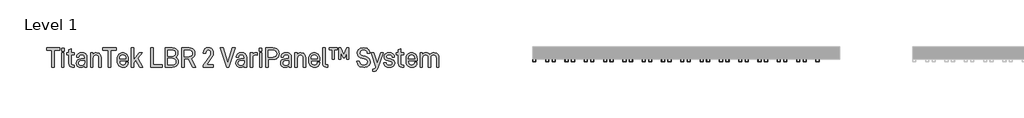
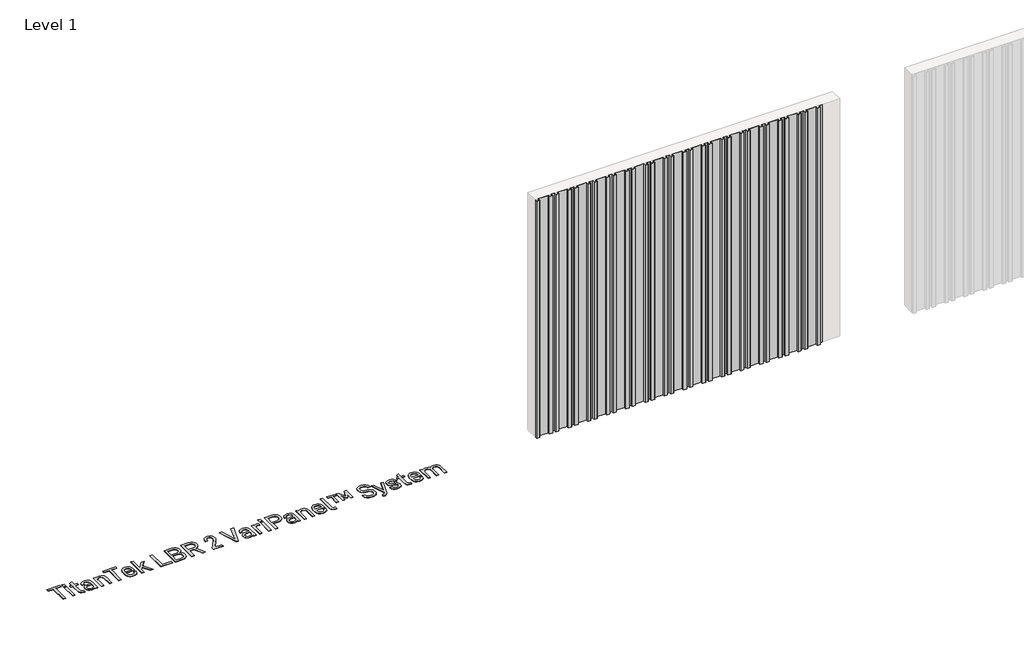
# One storey, part 25 of 33: 2 proxies.
"""IFC4 building model written with IfcOpenShell, lengths in millimetres."""

from ifc_helpers import new_model, si_unit, origin, origin_with_axes, place, context, project, spatial, polyline, outline, extrude, transform, mapped, element, save
from components import aluminum_slate_gray_e42b10ff

model = new_model("IFC4")

# Units and contexts
model_context = context("Model", 3, world=origin())
ifc_project = project(units=[si_unit("LENGTHUNIT", "METRE", prefix="MILLI")], contexts=[model_context])

# Site, building, storey
site = spatial("IfcSite", under=ifc_project)
building = spatial("IfcBuilding", under=site)
storey = spatial("IfcBuildingStorey", under=building, Name="Level 1", Elevation=0.0)

# Proxies
placement = place(None, origin())
element("IfcBuildingElementProxy", 1, Name="600mm Arial 2", ObjectType="600mm Arial 2", at=placement, inside=storey, context=model_context, shape_type="SweptSolid", body=[
    extrude(outline(polyline([(-9914.9924556, 87220.4128343), (-9914.9924556, 86952.9873502), (-9954.4439015, 86952.9873502), (-9954.4439015, 87220.4128343), (-10038.8787304, 87220.4128343), (-10038.8787304, 87257.3166776), (-9830.5576267, 87257.3166776), (-9830.5576267, 87220.4128343), (-9914.9924556, 87220.4128343)])), origin_with_axes(), (0.0, 0.0, 1.0), 5.0),
    extrude(outline(polyline([(-9763.1553408, 87253.0221475), (-9763.1553408, 87205.8551051), (-9802.6067867, 87205.8551051), (-9802.6067867, 87253.0221475), (-9763.1553408, 87253.0221475)])), origin_with_axes(), (0.0, 0.0, 1.0), 5.0),
    extrude(outline(polyline([(-9764.0288046, 87178.8505176), (-9764.0288046, 86952.9873502), (-9801.733323, 86952.9873502), (-9801.733323, 87178.8505176), (-9764.0288046, 87178.8505176)])), origin_with_axes(), (0.0, 0.0, 1.0), 5.0),
    extrude(outline(polyline([(-9648.294858, 87012.601251), (-9646.8208879, 87001.5191797), (-9642.3989777, 86993.6034145), (-9635.0291273, 86988.8539554), (-9624.7113368, 86987.2708023), (-9603.2386864, 86987.2708023), (-9603.2386864, 86952.9873502), (-9629.3698101, 86952.9873502), (-9653.1535001, 86956.9543314), (-9671.3688587, 86968.855275), (-9682.6692959, 86987.3981825), (-9686.4361083, 87011.2910554), (-9686.4361083, 87147.1146681), (-9720.2828285, 87147.1146681), (-9720.2828285, 87178.8505176), (-9686.4361083, 87178.8505176), (-9686.4361083, 87226.8910237), (-9648.294858, 87244.8698192), (-9648.294858, 87178.8505176), (-9599.3808881, 87178.8505176), (-9599.3808881, 87147.1146681), (-9648.294858, 87147.1146681), (-9648.294858, 87012.601251)])), origin_with_axes(), (0.0, 0.0, 1.0), 5.0),
    extrude(outline(polyline([(-9422.8684225, 87162.1091291), (-9413.2830677, 87151.3409589), (-9406.4363858, 87138.2526505), (-9400.9590402, 87105.1156196), (-9400.9590402, 86952.9873502), (-9438.2996154, 86952.9873502), (-9438.2996154, 86969.2920069), (-9456.7151427, 86956.8451485), (-9473.7476858, 86952.0410978), (-9493.9829293, 86950.4397476), (-9526.0281305, 86954.7160806), (-9550.1029751, 86967.5450794), (-9565.2248162, 86989.3270816), (-9570.2654299, 87018.5699199), (-9565.1338304, 87046.2114081), (-9549.7390318, 87067.4111012), (-9525.063681, 87080.6222403), (-9493.1094655, 87085.0259534), (-9438.7363472, 87085.0259534), (-9438.7363472, 87105.5523515), (-9441.6296959, 87124.441005), (-9450.3097419, 87138.1616647), (-9464.2305704, 87146.1866129), (-9483.7197302, 87148.8615956), (-9502.2262434, 87146.6051476), (-9515.819523, 87139.8358036), (-9524.1720201, 87129.4816187), (-9526.9561857, 87115.4516073), (-9526.9561857, 87109.8468816), (-9563.8600291, 87109.8468816), (-9563.8600291, 87116.2522824), (-9558.4008807, 87143.2932642), (-9542.0234354, 87164.2927885), (-9516.8203668, 87177.4493362), (-9484.1564621, 87181.8348521), (-9448.6719974, 87176.9034213), (-9434.5600987, 87170.7391329), (-9422.8684225, 87162.1091291)]), holes=[polyline([(-9450.6736851, 86994.5496669), (-9441.7206817, 87009.4531421), (-9438.7363472, 87031.0167784), (-9438.7363472, 87054.9642428), (-9488.8149354, 87054.9642428), (-9507.9538, 87052.7168933), (-9521.6244175, 87045.974845), (-9529.826788, 87034.7380979), (-9532.5609115, 87019.0066518), (-9529.8540837, 87003.0522906), (-9521.7336004, 86991.6563182), (-9508.1994616, 86984.8187348), (-9489.2516673, 86982.5395404), (-9466.104878, 86985.542072), (-9450.6736851, 86994.5496669)])]), origin_with_axes(), (0.0, 0.0, 1.0), 5.0),
    extrude(outline(polyline([(-9306.6977441, 87178.8505176), (-9306.6977441, 87160.4349903), (-9288.2822167, 87173.6825238), (-9271.1222935, 87179.4692211), (-9252.2518372, 87181.3981202), (-9219.9154813, 87175.9389718), (-9206.7907787, 87169.1150363), (-9195.6950595, 87159.5615265), (-9187.0650557, 87147.9790333), (-9180.9007673, 87134.1946835), (-9175.9693365, 87100.0204144), (-9175.9693365, 86952.9873502), (-9213.673855, 86952.9873502), (-9213.673855, 87095.7258843), (-9216.6763866, 87118.1083928), (-9225.6839815, 87133.8671346), (-9240.3781893, 87143.4752358), (-9259.567096, 87146.6779363), (-9278.7378056, 87143.4752358), (-9293.3774219, 87133.8671346), (-9303.0401146, 87117.453295), (-9306.2610122, 87095.7258843), (-9306.2610122, 86952.9873502), (-9343.9655306, 86952.9873502), (-9343.9655306, 87178.8505176), (-9306.6977441, 87178.8505176)])), origin_with_axes(), (0.0, 0.0, 1.0), 5.0),
    extrude(outline(polyline([(-9025.2240514, 87220.4128343), (-9025.2240514, 86952.9873502), (-9064.6754974, 86952.9873502), (-9064.6754974, 87220.4128343), (-9149.1103263, 87220.4128343), (-9149.1103263, 87257.3166776), (-8940.7892225, 87257.3166776), (-8940.7892225, 87220.4128343), (-9025.2240514, 87220.4128343)])), origin_with_axes(), (0.0, 0.0, 1.0), 5.0),
    extrude(outline(polyline([(-8884.5235994, 87047.2486463), (-8881.1025331, 87017.8329349), (-8870.8393341, 86998.8805913), (-8854.3527058, 86988.5900965), (-8832.2613519, 86985.1599316), (-8812.990558, 86987.7257314), (-8798.8513635, 86995.4231306), (-8790.1713175, 87007.1966941), (-8787.2779689, 87022.86445), (-8787.2779689, 87028.3963871), (-8750.3741256, 87028.3963871), (-8750.3741256, 87021.9909863), (-8756.0516399, 86992.8391337), (-8763.1485329, 86980.528754), (-8773.084183, 86969.7287387), (-8799.7976159, 86955.2619954), (-8834.3722226, 86950.4397476), (-8853.3222916, 86951.9387388), (-8870.2843206, 86956.4357123), (-8885.2583098, 86963.9306682), (-8898.2442591, 86974.4236064), (-8908.7371973, 86988.0237099), (-8916.2321532, 87004.8401617), (-8920.7291267, 87024.8729617), (-8922.2281179, 87048.1221101), (-8922.2281179, 87085.8266285), (-8920.7314014, 87108.5321367), (-8916.2412518, 87128.1714231), (-8908.7576691, 87144.7444879), (-8898.2806535, 87158.2513309), (-8885.4971476, 87168.5691214), (-8870.7301511, 87175.9389718), (-8853.979664, 87180.360882), (-8835.2456864, 87181.8348521), (-8816.8438069, 87180.360882), (-8800.2161506, 87175.9389718), (-8785.3627176, 87168.5691214), (-8772.2835079, 87158.2513309), (-8761.9657174, 87144.9082623), (-8754.595867, 87128.389789), (-8750.1739568, 87108.6959111), (-8748.6999867, 87085.8266285), (-8748.6999867, 87055.8377065), (-8884.5235994, 87055.8377065), (-8884.5235994, 87047.2486463)]), holes=[polyline([(-8871.2760659, 87133.4304027), (-8881.2117161, 87115.30603), (-8884.5235994, 87086.7000923), (-8786.4045051, 87086.2633604), (-8786.4045051, 87089.6844267), (-8789.6254027, 87116.9255774), (-8799.2880954, 87134.3038665), (-8814.9012599, 87143.5844188), (-8835.2456864, 87146.6779363), (-8855.60831, 87143.3660529), (-8871.2760659, 87133.4304027)])]), origin_with_axes(), (0.0, 0.0, 1.0), 5.0),
    extrude(outline(polyline([(-8663.391694, 87020.3168474), (-8663.391694, 86952.9873502), (-8701.0962125, 86952.9873502), (-8701.0962125, 87257.3166776), (-8663.391694, 87257.3166776), (-8663.391694, 87070.8321675), (-8575.0990669, 87178.8505176), (-8528.3687564, 87178.8505176), (-8602.5403863, 87091.8680861), (-8517.6688255, 86952.9873502), (-8563.5256722, 86952.9873502), (-8627.7980463, 87062.6798392), (-8663.391694, 87020.3168474)])), origin_with_axes(), (0.0, 0.0, 1.0), 5.0),
    extrude(outline(polyline([(-8356.2963981, 87257.3166776), (-8356.2963981, 86989.8184049), (-8208.8993907, 86989.8184049), (-8208.8993907, 86952.9873502), (-8396.1845759, 86952.9873502), (-8396.1845759, 87257.3166776), (-8356.2963981, 87257.3166776)])), origin_with_axes(), (0.0, 0.0, 1.0), 5.0),
    extrude(outline(polyline([(-7972.0451379, 87085.8266285), (-7962.0548962, 87064.117415), (-7958.7248157, 87038.2956429), (-7960.3056941, 87019.4251865), (-7965.0483293, 87002.7019952), (-7972.9527213, 86988.1260689), (-7984.0188701, 86975.6974077), (-7997.7918466, 86965.7617575), (-8013.8167219, 86958.6648646), (-8052.6221686, 86952.9873502), (-8167.9193832, 86952.9873502), (-8167.9193832, 87257.3166776), (-8055.1697712, 87257.3166776), (-8016.7373663, 87251.948515), (-8001.1242018, 87245.2383117), (-7987.9130626, 87235.8440271), (-7977.2131317, 87223.8520978), (-7969.5703239, 87209.7129034), (-7964.9846392, 87193.4264439), (-7963.4560777, 87174.9927194), (-7966.6769752, 87152.1552818), (-7976.3396679, 87131.6834753), (-7987.7856825, 87118.6179134), (-8001.597328, 87109.4101497), (-7984.7831508, 87099.2197393), (-7972.0451379, 87085.8266285)]), holes=[polyline([(-8013.6074545, 87002.7019952), (-8002.3616088, 87018.351554), (-7998.6129935, 87040.4065136), (-8002.2524258, 87062.0793329), (-8013.1707226, 87077.310357), (-8031.1677153, 87086.9184582), (-8056.0432349, 87090.1211586), (-8128.0312054, 87090.1211586), (-8128.0312054, 86989.4544617), (-8056.4799668, 86989.4544617), (-8031.6044471, 86992.7663451), (-8013.6074545, 87002.7019952)]), polyline([(-8128.0312054, 87126.5882701), (-8058.5908375, 87126.5882701), (-8035.2438794, 87129.4816187), (-8017.4652527, 87138.1616647), (-8006.8745048, 87152.737591), (-8003.3442555, 87173.3185806), (-8006.7653218, 87193.77219), (-8017.0285209, 87208.8394396), (-8034.2066412, 87217.8470345), (-8058.2268943, 87220.8495661), (-8128.0312054, 87220.8495661), (-8128.0312054, 87126.5882701)])]), origin_with_axes(), (0.0, 0.0, 1.0), 5.0),
    extrude(outline(polyline([(-7862.4982262, 87082.842294), (-7862.4982262, 86952.9873502), (-7902.386404, 86952.9873502), (-7902.386404, 87257.3166776), (-7788.3993849, 87257.3166776), (-7749.9123886, 87251.6391632), (-7733.9580273, 87244.5422703), (-7720.196424, 87234.6066202), (-7709.1461977, 87221.8777058), (-7701.253179, 87206.8377519), (-7696.5173677, 87189.4867585), (-7694.938764, 87169.8247256), (-7699.3242799, 87139.8540007), (-7712.4808275, 87115.0148754), (-7731.5696499, 87097.9641352), (-7756.2268036, 87087.1368241), (-7685.5490287, 86952.9873502), (-7731.4058754, 86952.9873502), (-7798.2258521, 87082.842294), (-7862.4982262, 87082.842294)]), holes=[polyline([(-7790.9469875, 87118.4359417), (-7766.6173827, 87121.7478251), (-7749.3846709, 87131.6834753), (-7738.466374, 87147.5695972), (-7734.8269418, 87169.4607823), (-7738.3571911, 87191.6158263), (-7748.947939, 87207.5656383), (-7766.5081998, 87217.2010353), (-7790.9469875, 87220.4128343), (-7862.4982262, 87220.4128343), (-7862.4982262, 87118.4359417), (-7790.9469875, 87118.4359417)])]), origin_with_axes(), (0.0, 0.0, 1.0), 5.0),
    extrude(outline(polyline([(-7461.7239434, 87127.4617338), (-7448.1852553, 87153.2471115), (-7443.6723592, 87176.7396469), (-7443.6723592, 87183.1450477), (-7446.3655391, 87200.9418716), (-7454.4450788, 87214.0074335), (-7467.2922748, 87222.3599305), (-7483.560537, 87225.1440962), (-7499.9379823, 87222.4691135), (-7512.2392634, 87214.4441653), (-7519.9912542, 87200.6143227), (-7522.5752511, 87181.3981202), (-7522.5752511, 87169.4607823), (-7561.9539084, 87169.4607823), (-7561.9539084, 87183.1450477), (-7556.6039429, 87214.7535171), (-7540.5540466, 87240.1385572), (-7514.9506405, 87256.1884536), (-7482.6870733, 87261.5384191), (-7460.5047335, 87258.9726193), (-7441.1247566, 87251.27522), (-7425.1658461, 87239.3924736), (-7413.2467054, 87223.3971687), (-7405.876855, 87204.9998386), (-7403.4202382, 87184.0185115), (-7403.4202382, 87176.7396469), (-7405.1307714, 87158.0875565), (-7410.2623709, 87140.7092673), (-7429.9880939, 87105.9890833), (-7511.0018565, 86989.4544617), (-7403.4202382, 86989.4544617), (-7403.4202382, 86952.9873502), (-7561.9539084, 86952.9873502), (-7561.9539084, 86983.849736), (-7461.7239434, 87127.4617338)])), origin_with_axes(), (0.0, 0.0, 1.0), 5.0),
    extrude(outline(polyline([(-7103.8949615, 87257.3166776), (-7062.3326448, 87257.3166776), (-7161.7619347, 86952.9873502), (-7193.4977842, 86952.9873502), (-7292.4903423, 87257.3166776), (-7250.9280256, 87257.3166776), (-7177.1931276, 87022.86445), (-7103.8949615, 87257.3166776)])), origin_with_axes(), (0.0, 0.0, 1.0), 5.0),
    extrude(outline(polyline([(-6902.6343563, 87162.1091291), (-6893.0490015, 87151.3409589), (-6886.2023195, 87138.2526505), (-6880.724974, 87105.1156196), (-6880.724974, 86952.9873502), (-6918.0655492, 86952.9873502), (-6918.0655492, 86969.2920069), (-6936.4810765, 86956.8451485), (-6953.5136196, 86952.0410978), (-6973.7488631, 86950.4397476), (-7005.7940643, 86954.7160806), (-7029.8689089, 86967.5450794), (-7044.99075, 86989.3270816), (-7050.0313637, 87018.5699199), (-7044.8997642, 87046.2114081), (-7029.5049656, 87067.4111012), (-7004.8296148, 87080.6222403), (-6972.8753993, 87085.0259534), (-6918.502281, 87085.0259534), (-6918.502281, 87105.5523515), (-6921.3956297, 87124.441005), (-6930.0756757, 87138.1616647), (-6943.9965042, 87146.1866129), (-6963.485664, 87148.8615956), (-6981.9921772, 87146.6051476), (-6995.5854568, 87139.8358036), (-7003.9379538, 87129.4816187), (-7006.7221195, 87115.4516073), (-7006.7221195, 87109.8468816), (-7043.6259629, 87109.8468816), (-7043.6259629, 87116.2522824), (-7038.1668145, 87143.2932642), (-7021.7893692, 87164.2927885), (-6996.5863006, 87177.4493362), (-6963.9223959, 87181.8348521), (-6928.4379312, 87176.9034213), (-6914.3260325, 87170.7391329), (-6902.6343563, 87162.1091291)]), holes=[polyline([(-6930.4396189, 86994.5496669), (-6921.4866155, 87009.4531421), (-6918.502281, 87031.0167784), (-6918.502281, 87054.9642428), (-6968.5808692, 87054.9642428), (-6987.7197337, 87052.7168933), (-7001.3903513, 87045.974845), (-7009.5927218, 87034.7380979), (-7012.3268453, 87019.0066518), (-7009.6200175, 87003.0522906), (-7001.4995342, 86991.6563182), (-6987.9653954, 86984.8187348), (-6969.0176011, 86982.5395404), (-6945.8708118, 86985.542072), (-6930.4396189, 86994.5496669)])]), origin_with_axes(), (0.0, 0.0, 1.0), 5.0),
    extrude(outline(polyline([(-6733.7646984, 87181.8348521), (-6713.6022436, 87179.7239814), (-6713.6022436, 87140.7092673), (-6740.1700993, 87146.313993), (-6758.5037394, 87142.7746451), (-6773.17975, 87132.1566015), (-6782.815147, 87115.7518604), (-6786.026946, 87094.8524206), (-6786.026946, 86952.9873502), (-6823.7314644, 86952.9873502), (-6823.7314644, 87178.8505176), (-6786.4636779, 87178.8505176), (-6786.4636779, 87159.1247947), (-6768.9216143, 87173.3185806), (-6752.8171264, 87179.7057842), (-6733.7646984, 87181.8348521)])), origin_with_axes(), (0.0, 0.0, 1.0), 5.0),
    extrude(outline(polyline([(-6638.1932067, 87178.8505176), (-6638.1932067, 86952.9873502), (-6675.8977252, 86952.9873502), (-6675.8977252, 87178.8505176), (-6638.1932067, 87178.8505176)])), origin_with_axes(), (0.0, 0.0, 1.0), 5.0),
    extrude(outline(polyline([(-6637.319743, 87253.0221475), (-6637.319743, 87205.8551051), (-6676.7711889, 87205.8551051), (-6676.7711889, 87253.0221475), (-6637.319743, 87253.0221475)])), origin_with_axes(), (0.0, 0.0, 1.0), 5.0),
    extrude(outline(polyline([(-6392.9682596, 87233.2964245), (-6381.535893, 87219.8396237), (-6373.3699168, 87203.926206), (-6368.4703311, 87185.5561716), (-6366.8371358, 87164.7295204), (-6368.4976268, 87145.044741), (-6373.4790997, 87127.5527196), (-6381.7815546, 87112.2534562), (-6393.4049915, 87099.1469507), (-6407.4622987, 87088.6380899), (-6423.9398283, 87081.1317609), (-6442.8375804, 87076.6279634), (-6464.155555, 87075.1266976), (-6534.8333299, 87075.1266976), (-6534.8333299, 86952.9873502), (-6574.7215077, 86952.9873502), (-6574.7215077, 87257.3166776), (-6464.155555, 87257.3166776), (-6442.9740592, 87255.8154118), (-6424.0490113, 87251.3116143), (-6407.3804114, 87243.8052853), (-6392.9682596, 87233.2964245)]), holes=[polyline([(-6421.7197746, 87125.2780744), (-6410.4739289, 87141.5827311), (-6406.7253136, 87164.7295204), (-6410.5831119, 87189.3502798), (-6422.1565065, 87206.7285689), (-6441.2271317, 87216.9917679), (-6466.7031576, 87220.4128343), (-6534.8333299, 87220.4128343), (-6534.8333299, 87112.0305409), (-6466.7031576, 87112.0305409), (-6440.4628509, 87115.3424243), (-6421.7197746, 87125.2780744)])]), origin_with_axes(), (0.0, 0.0, 1.0), 5.0),
    extrude(outline(polyline([(-6194.5464116, 87162.1091291), (-6184.9610569, 87151.3409589), (-6178.1143749, 87138.2526505), (-6172.6370293, 87105.1156196), (-6172.6370293, 86952.9873502), (-6209.9776045, 86952.9873502), (-6209.9776045, 86969.2920069), (-6228.3931318, 86956.8451485), (-6245.4256749, 86952.0410978), (-6265.6609184, 86950.4397476), (-6297.7061196, 86954.7160806), (-6321.7809642, 86967.5450794), (-6336.9028053, 86989.3270816), (-6341.943419, 87018.5699199), (-6336.8118195, 87046.2114081), (-6321.417021, 87067.4111012), (-6296.7416701, 87080.6222403), (-6264.7874547, 87085.0259534), (-6210.4143364, 87085.0259534), (-6210.4143364, 87105.5523515), (-6213.307685, 87124.441005), (-6221.987731, 87138.1616647), (-6235.9085595, 87146.1866129), (-6255.3977194, 87148.8615956), (-6273.9042325, 87146.6051476), (-6287.4975121, 87139.8358036), (-6295.8500092, 87129.4816187), (-6298.6341749, 87115.4516073), (-6298.6341749, 87109.8468816), (-6335.5380182, 87109.8468816), (-6335.5380182, 87116.2522824), (-6330.0788698, 87143.2932642), (-6313.7014245, 87164.2927885), (-6288.498356, 87177.4493362), (-6255.8344513, 87181.8348521), (-6220.3499865, 87176.9034213), (-6206.2380878, 87170.7391329), (-6194.5464116, 87162.1091291)]), holes=[polyline([(-6222.3516743, 86994.5496669), (-6213.3986709, 87009.4531421), (-6210.4143364, 87031.0167784), (-6210.4143364, 87054.9642428), (-6260.4929246, 87054.9642428), (-6279.6317891, 87052.7168933), (-6293.3024066, 87045.974845), (-6301.5047771, 87034.7380979), (-6304.2389006, 87019.0066518), (-6301.5320728, 87003.0522906), (-6293.4115896, 86991.6563182), (-6279.8774508, 86984.8187348), (-6260.9296564, 86982.5395404), (-6237.7828671, 86985.542072), (-6222.3516743, 86994.5496669)])]), origin_with_axes(), (0.0, 0.0, 1.0), 5.0),
    extrude(outline(polyline([(-6078.3757332, 87178.8505176), (-6078.3757332, 87160.4349903), (-6059.9602059, 87173.6825238), (-6042.8002827, 87179.4692211), (-6023.9298263, 87181.3981202), (-5991.5934705, 87175.9389718), (-5978.4687678, 87169.1150363), (-5967.3730486, 87159.5615265), (-5958.7430448, 87147.9790333), (-5952.5787564, 87134.1946835), (-5947.6473257, 87100.0204144), (-5947.6473257, 86952.9873502), (-5985.3518441, 86952.9873502), (-5985.3518441, 87095.7258843), (-5988.3543757, 87118.1083928), (-5997.3619706, 87133.8671346), (-6012.0561785, 87143.4752358), (-6031.2450852, 87146.6779363), (-6050.4157947, 87143.4752358), (-6065.0554111, 87133.8671346), (-6074.7181038, 87117.453295), (-6077.9390013, 87095.7258843), (-6077.9390013, 86952.9873502), (-6115.6435198, 86952.9873502), (-6115.6435198, 87178.8505176), (-6078.3757332, 87178.8505176)])), origin_with_axes(), (0.0, 0.0, 1.0), 5.0),
    extrude(outline(polyline([(-5861.1744147, 87047.2486463), (-5857.7533483, 87017.8329349), (-5847.4901493, 86998.8805913), (-5831.003521, 86988.5900965), (-5808.9121671, 86985.1599316), (-5789.6413732, 86987.7257314), (-5775.5021788, 86995.4231306), (-5766.8221328, 87007.1966941), (-5763.9287841, 87022.86445), (-5763.9287841, 87028.3963871), (-5727.0249408, 87028.3963871), (-5727.0249408, 87021.9909863), (-5732.7024551, 86992.8391337), (-5739.7993481, 86980.528754), (-5749.7349982, 86969.7287387), (-5776.4484311, 86955.2619954), (-5811.0230378, 86950.4397476), (-5829.9731068, 86951.9387388), (-5846.9351359, 86956.4357123), (-5861.9091251, 86963.9306682), (-5874.8950744, 86974.4236064), (-5885.3880126, 86988.0237099), (-5892.8829684, 87004.8401617), (-5897.3799419, 87024.8729617), (-5898.8789331, 87048.1221101), (-5898.8789331, 87085.8266285), (-5897.3822166, 87108.5321367), (-5892.892067, 87128.1714231), (-5885.4084844, 87144.7444879), (-5874.9314687, 87158.2513309), (-5862.1479628, 87168.5691214), (-5847.3809663, 87175.9389718), (-5830.6304792, 87180.360882), (-5811.8965016, 87181.8348521), (-5793.4946221, 87180.360882), (-5776.8669659, 87175.9389718), (-5762.0135329, 87168.5691214), (-5748.9343231, 87158.2513309), (-5738.6165326, 87144.9082623), (-5731.2466822, 87128.389789), (-5726.824772, 87108.6959111), (-5725.3508019, 87085.8266285), (-5725.3508019, 87055.8377065), (-5861.1744147, 87055.8377065), (-5861.1744147, 87047.2486463)]), holes=[polyline([(-5847.9268812, 87133.4304027), (-5857.8625313, 87115.30603), (-5861.1744147, 87086.7000923), (-5763.0553204, 87086.2633604), (-5763.0553204, 87089.6844267), (-5766.2762179, 87116.9255774), (-5775.9389106, 87134.3038665), (-5791.5520751, 87143.5844188), (-5811.8965016, 87146.6779363), (-5832.2591252, 87143.3660529), (-5847.9268812, 87133.4304027)])]), origin_with_axes(), (0.0, 0.0, 1.0), 5.0),
    extrude(outline(polyline([(-5662.7525667, 86968.855275), (-5673.9984124, 86988.362632), (-5677.7470277, 87014.2753899), (-5677.7470277, 87257.3166776), (-5640.0425092, 87257.3166776), (-5640.0425092, 87016.0223174), (-5638.659525, 87002.6110094), (-5634.5105722, 86994.112935), (-5627.5228622, 86989.6364333), (-5616.8957199, 86988.1442661), (-5595.0591262, 86988.1442661), (-5595.0591262, 86952.9873502), (-5619.8800544, 86952.9873502), (-5644.755574, 86956.9543314), (-5662.7525667, 86968.855275)])), origin_with_axes(), (0.0, 0.0, 1.0), 5.0),
    extrude(outline(polyline([(-5576.2796557, 87226.01756), (-5576.2796557, 87257.3166776), (-5444.3138412, 87257.3166776), (-5444.3138412, 87226.01756), (-5493.1550224, 87226.01756), (-5493.1550224, 87079.8579596), (-5527.0017426, 87079.8579596), (-5527.0017426, 87226.01756), (-5576.2796557, 87226.01756)])), origin_with_axes(), (0.0, 0.0, 1.0), 5.0),
    extrude(outline(polyline([(-5298.5909726, 87257.3166776), (-5268.1653187, 87257.3166776), (-5268.1653187, 87079.8579596), (-5300.7018433, 87079.8579596), (-5300.7018433, 87178.4137857), (-5333.7478884, 87104.6788877), (-5357.3314096, 87104.6788877), (-5390.741398, 87178.4137857), (-5390.741398, 87079.8579596), (-5423.2779226, 87079.8579596), (-5423.2779226, 87257.3166776), (-5392.8522687, 87257.3166776), (-5345.3212831, 87149.7350594), (-5298.5909726, 87257.3166776)])), origin_with_axes(), (0.0, 0.0, 1.0), 5.0),
    extrude(outline(polyline([(-5106.3561595, 86973.1498051), (-5118.5437084, 86986.7931268), (-5127.7378242, 87003.3388959), (-5133.9385069, 87022.7871121), (-5137.1457566, 87045.1377756), (-5097.7670993, 87045.1377756), (-5092.1669229, 87019.4388344), (-5079.2241918, 87001.0824478), (-5058.9389062, 86990.0686159), (-5031.3110659, 86986.3973386), (-5003.2692401, 86989.7274191), (-4983.3433484, 86999.7176607), (-4971.4424048, 87015.5855855), (-4967.4754236, 87037.4221792), (-4970.5871382, 87057.020522), (-4979.922282, 87071.2688994), (-4996.1723472, 87081.0225779), (-5019.3009393, 87087.1368241), (-5052.7837163, 87092.7415498), (-5085.556804, 87102.3678482), (-5110.2139577, 87118.4359417), (-5119.1942569, 87129.313295), (-5125.6087563, 87142.2196317), (-5130.7403558, 87174.1192557), (-5128.9979776, 87193.5902184), (-5123.770843, 87210.8047331), (-5115.0589519, 87225.7627997), (-5102.8623045, 87238.4644184), (-5088.1271531, 87248.4000685), (-5071.2902295, 87255.4969615), (-5031.3110659, 87261.1744758), (-4994.1524623, 87255.8063132), (-4978.2208475, 87249.0961099), (-4964.0543573, 87239.7018254), (-4951.6165975, 87226.8455308), (-4942.1813693, 87210.9867047), (-4935.7486727, 87192.1253469), (-4932.3185078, 87170.2614574), (-4971.7699537, 87170.2614574), (-4976.6376944, 87194.4636821), (-4988.256582, 87211.7509854), (-5006.6266164, 87222.1233674), (-5031.7477977, 87225.5808281), (-5057.6605556, 87222.2507476), (-5076.2944489, 87212.260506), (-5087.8678435, 87196.6473415), (-5091.7256417, 87176.302915), (-5088.8322931, 87158.5060912), (-5080.1522471, 87145.4405293), (-5064.7210542, 87135.9052167), (-5042.4477286, 87129.5726045), (-5008.1642766, 87123.6039356), (-4974.0991904, 87113.613694), (-4949.0598963, 87096.5993481), (-4939.8566819, 87085.285263), (-4933.2829574, 87071.9421944), (-4928.0239777, 87039.1691067), (-4929.8209474, 87019.1567784), (-4935.2118565, 87001.555574), (-4944.1967049, 86986.3654935), (-4956.7754927, 86973.586537), (-4972.1611927, 86963.4598166), (-4990.0762981, 86956.226445), (-5010.520809, 86951.886422), (-5033.4947252, 86950.4397476), (-5074.4201412, 86956.117262), (-5091.5118251, 86963.2141549), (-5106.3561595, 86973.1498051)])), origin_with_axes(), (0.0, 0.0, 1.0), 5.0),
    extrude(outline(polyline([(-4764.9774115, 87178.8505176), (-4725.5259656, 87178.8505176), (-4811.2709901, 86932.3881635), (-4820.8063027, 86912.5714548), (-4833.9810476, 86898.5414433), (-4850.7952247, 86890.5164951), (-4872.1222979, 86887.8415124), (-4889.2276296, 86887.8415124), (-4889.2276296, 86922.9984282), (-4874.2331686, 86922.9984282), (-4861.4951556, 86924.3996097), (-4853.2700387, 86928.603154), (-4846.8464407, 86935.6454554), (-4841.2599121, 86947.4554132), (-4837.8388458, 86959.3927511), (-4913.6846145, 87178.8505176), (-4872.9957616, 87178.8505176), (-4818.9865866, 87014.7121217), (-4764.9774115, 87178.8505176)])), origin_with_axes(), (0.0, 0.0, 1.0), 5.0),
    extrude(outline(polyline([(-4688.3309677, 86968.4185431), (-4698.457688, 86978.5953056), (-4705.6910596, 86990.273334), (-4711.477757, 87018.1331881), (-4711.477757, 87024.1746457), (-4674.6467023, 87024.1746457), (-4674.6467023, 87018.5699199), (-4671.5349877, 87004.3215426), (-4662.1998439, 86993.3122599), (-4647.0780028, 86986.215367), (-4627.4796599, 86983.849736), (-4606.9168675, 86986.106184), (-4591.522069, 86992.875528), (-4582.5144741, 87003.5572618), (-4579.5119425, 87017.6964562), (-4581.5500245, 87029.9431458), (-4587.6642708, 87038.2956429), (-4598.9829052, 87044.391692), (-4616.779729, 87048.9955738), (-4643.7843165, 87053.7268358), (-4672.3720571, 87061.751784), (-4692.1887659, 87073.8892906), (-4704.0897094, 87091.3403684), (-4708.0566906, 87115.4516073), (-4702.3791763, 87142.7655466), (-4695.2822833, 87154.0887302), (-4685.3466332, 87163.8560566), (-4660.179959, 87177.3401532), (-4628.3531237, 87181.8348521), (-4594.2880375, 87177.4493362), (-4568.3752797, 87164.2927885), (-4551.0151877, 87143.9119677), (-4545.2284904, 87117.9992099), (-4545.2284904, 87111.1570772), (-4582.059545, 87111.1570772), (-4582.059545, 87116.6890143), (-4584.9528937, 87129.9001534), (-4593.6329397, 87140.2725354), (-4608.318049, 87147.0418795), (-4627.4796599, 87149.2983275), (-4646.5502851, 87147.0418795), (-4660.0889732, 87140.2725354), (-4668.4414702, 87130.300491), (-4671.2256359, 87116.6890143), (-4669.2967368, 87105.7889146), (-4663.5100395, 87097.836755), (-4653.0102774, 87091.631523), (-4636.9421839, 87087.573556), (-4608.6274007, 87082.4055622), (-4579.6029283, 87074.0712622), (-4559.3494876, 87061.8791641), (-4546.7934462, 87043.9549601), (-4542.6080991, 87019.4433837), (-4544.1093649, 87003.8620642), (-4548.6131624, 86990.164151), (-4556.1194915, 86978.3496439), (-4566.6283522, 86968.4185431), (-4593.9604886, 86954.9344465), (-4628.7898555, 86950.4397476), (-4662.0906609, 86954.9344465), (-4688.3309677, 86968.4185431)])), origin_with_axes(), (0.0, 0.0, 1.0), 5.0),
    extrude(outline(polyline([(-4444.7801594, 87012.601251), (-4443.3061893, 87001.5191797), (-4438.8842791, 86993.6034145), (-4431.5144287, 86988.8539554), (-4421.1966382, 86987.2708023), (-4399.7239878, 86987.2708023), (-4399.7239878, 86952.9873502), (-4425.8551115, 86952.9873502), (-4449.6388015, 86956.9543314), (-4467.8541601, 86968.855275), (-4479.1545973, 86987.3981825), (-4482.9214097, 87011.2910554), (-4482.9214097, 87147.1146681), (-4516.7681299, 87147.1146681), (-4516.7681299, 87178.8505176), (-4482.9214097, 87178.8505176), (-4482.9214097, 87226.8910237), (-4444.7801594, 87244.8698192), (-4444.7801594, 87178.8505176), (-4395.8661895, 87178.8505176), (-4395.8661895, 87147.1146681), (-4444.7801594, 87147.1146681), (-4444.7801594, 87012.601251)])), origin_with_axes(), (0.0, 0.0, 1.0), 5.0),
    extrude(outline(polyline([(-4323.878219, 87047.2486463), (-4320.4571527, 87017.8329349), (-4310.1939536, 86998.8805913), (-4293.7073254, 86988.5900965), (-4271.6159714, 86985.1599316), (-4252.3451775, 86987.7257314), (-4238.2059831, 86995.4231306), (-4229.5259371, 87007.1966941), (-4226.6325884, 87022.86445), (-4226.6325884, 87028.3963871), (-4189.7287451, 87028.3963871), (-4189.7287451, 87021.9909863), (-4195.4062595, 86992.8391337), (-4202.5031524, 86980.528754), (-4212.4388026, 86969.7287387), (-4239.1522355, 86955.2619954), (-4273.7268422, 86950.4397476), (-4292.6769111, 86951.9387388), (-4309.6389402, 86956.4357123), (-4324.6129294, 86963.9306682), (-4337.5988787, 86974.4236064), (-4348.0918169, 86988.0237099), (-4355.5867728, 87004.8401617), (-4360.0837463, 87024.8729617), (-4361.5827374, 87048.1221101), (-4361.5827374, 87085.8266285), (-4360.0860209, 87108.5321367), (-4355.5958713, 87128.1714231), (-4348.1122887, 87144.7444879), (-4337.635273, 87158.2513309), (-4324.8517671, 87168.5691214), (-4310.0847707, 87175.9389718), (-4293.3342836, 87180.360882), (-4274.6003059, 87181.8348521), (-4256.1984264, 87180.360882), (-4239.5707702, 87175.9389718), (-4224.7173372, 87168.5691214), (-4211.6381274, 87158.2513309), (-4201.3203369, 87144.9082623), (-4193.9504866, 87128.389789), (-4189.5285763, 87108.6959111), (-4188.0546063, 87085.8266285), (-4188.0546063, 87055.8377065), (-4323.878219, 87055.8377065), (-4323.878219, 87047.2486463)]), holes=[polyline([(-4310.6306855, 87133.4304027), (-4320.5663356, 87115.30603), (-4323.878219, 87086.7000923), (-4225.7591247, 87086.2633604), (-4225.7591247, 87089.6844267), (-4228.9800223, 87116.9255774), (-4238.642715, 87134.3038665), (-4254.2558795, 87143.5844188), (-4274.6003059, 87146.6779363), (-4294.9629295, 87143.3660529), (-4310.6306855, 87133.4304027)])]), origin_with_axes(), (0.0, 0.0, 1.0), 5.0),
    extrude(outline(polyline([(-4103.1830455, 87178.8505176), (-4103.1830455, 87159.9982584), (-4084.7675181, 87173.3185806), (-4067.8259609, 87179.3782353), (-4048.7371385, 87181.3981202), (-4027.1007136, 87178.9415034), (-4008.4850175, 87171.5716531), (-3996.365708, 87162.1455234), (-3985.7749601, 87149.2983275), (-3973.3235524, 87163.3419868), (-3958.2426549, 87173.373172), (-3940.5322675, 87179.3918832), (-3920.1923904, 87181.3981202), (-3887.7104572, 87175.9389718), (-3874.4583745, 87169.1150363), (-3863.1988808, 87159.5615265), (-3854.1867366, 87147.9790333), (-3847.7494908, 87134.1946835), (-3842.5996941, 87100.0204144), (-3842.5996941, 86952.9873502), (-3880.3042126, 86952.9873502), (-3880.3042126, 87095.7258843), (-3883.3067442, 87118.1083928), (-3892.3143391, 87133.8671346), (-3906.4535335, 87143.4752358), (-3925.7243274, 87146.6779363), (-3945.4682476, 87143.4752358), (-3960.0077795, 87133.8671346), (-3969.3429233, 87117.7626468), (-3972.4546379, 87096.9632913), (-3972.4546379, 86952.9873502), (-4010.5958882, 86952.9873502), (-4010.5958882, 87095.7258843), (-4013.5984199, 87118.1083928), (-4022.6060148, 87133.8671346), (-4036.7452092, 87143.4752358), (-4056.0160031, 87146.6779363), (-4075.2140084, 87143.4752358), (-4089.8627233, 87133.8671346), (-4099.525416, 87117.453295), (-4102.7463136, 87095.7258843), (-4102.7463136, 86952.9873502), (-4140.450832, 86952.9873502), (-4140.450832, 87178.8505176), (-4103.1830455, 87178.8505176)])), origin_with_axes(), (0.0, 0.0, 1.0), 5.0),
])
aluminum_slate_gray_shape = aluminum_slate_gray_e42b10ff(model_context)
element("IfcBuildingElementProxy", 2, Name="TitanTek LBR 2 VariPanel™ System : Aluminum Slate Gray", ObjectType="TitanTek LBR 2 VariPanel™ System : Aluminum Slate Gray", at=placement, inside=storey, context=model_context, shape_type="MappedRepresentation", body=[
    mapped(aluminum_slate_gray_shape, transform((-2360.5897817, 87078.6095025, 0.0), x_axis=(1.0, 0.0, 0.0), y_axis=(0.0, 1.0, 0.0), z_axis=(0.0, 0.0, 1.0))),
])

save(model, "model.ifc")
